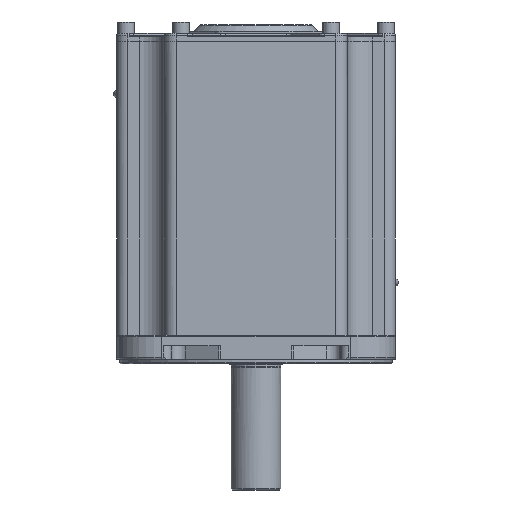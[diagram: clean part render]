
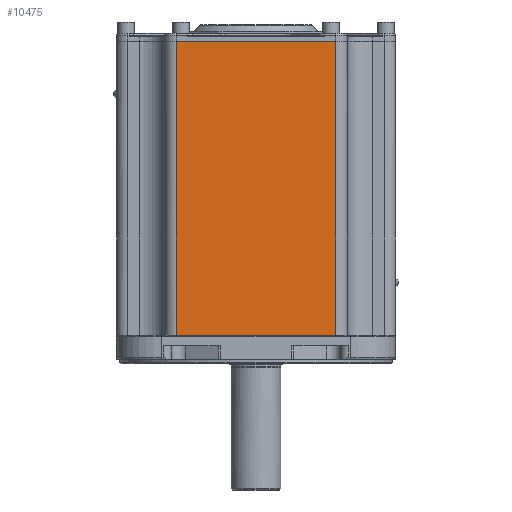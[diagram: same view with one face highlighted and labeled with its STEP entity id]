
A CAD part, front view. The second image highlights one B-rep face of the part: STEP entity #10475.
In plain terms, the highlighted planar face has unit normal (0, -1, 0).
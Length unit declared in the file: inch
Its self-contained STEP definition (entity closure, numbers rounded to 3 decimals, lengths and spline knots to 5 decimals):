
#9955=CARTESIAN_POINT('',(-2.65,-4.625,10.15));
#9956=VERTEX_POINT('',#9955);
#9963=CARTESIAN_POINT('',(2.65,-4.625,10.15));
#9964=VERTEX_POINT('',#9963);
#9965=CARTESIAN_POINT('',(2.65,-4.625,10.15));
#9966=DIRECTION('',(-1.0,0.0,0.0));
#9967=VECTOR('',#9966,5.3);
#9968=LINE('',#9965,#9967);
#9969=EDGE_CURVE('',#9964,#9956,#9968,.T.);
#10424=CARTESIAN_POINT('',(2.65,-4.625,0.4));
#10425=VERTEX_POINT('',#10424);
#10426=CARTESIAN_POINT('',(2.65,-4.625,10.15));
#10427=DIRECTION('',(0.0,0.0,-1.0));
#10428=VECTOR('',#10427,9.75);
#10429=LINE('',#10426,#10428);
#10430=EDGE_CURVE('',#9964,#10425,#10429,.T.);
#10452=CARTESIAN_POINT('',(3.025,-4.625,0.4));
#10453=DIRECTION('',(0.0,-1.0,0.0));
#10454=DIRECTION('',(0.0,0.0,-1.0));
#10455=AXIS2_PLACEMENT_3D('',#10452,#10453,#10454);
#10456=PLANE('',#10455);
#10457=ORIENTED_EDGE('',*,*,#9969,.T.);
#10458=CARTESIAN_POINT('',(-2.65,-4.625,0.4));
#10459=VERTEX_POINT('',#10458);
#10460=CARTESIAN_POINT('',(-2.65,-4.625,0.4));
#10461=DIRECTION('',(0.0,0.0,1.0));
#10462=VECTOR('',#10461,9.75);
#10463=LINE('',#10460,#10462);
#10464=EDGE_CURVE('',#10459,#9956,#10463,.T.);
#10465=ORIENTED_EDGE('',*,*,#10464,.F.);
#10466=CARTESIAN_POINT('',(-2.65,-4.625,0.4));
#10467=DIRECTION('',(1.0,0.0,0.0));
#10468=VECTOR('',#10467,5.3);
#10469=LINE('',#10466,#10468);
#10470=EDGE_CURVE('',#10459,#10425,#10469,.T.);
#10471=ORIENTED_EDGE('',*,*,#10470,.T.);
#10472=ORIENTED_EDGE('',*,*,#10430,.F.);
#10473=EDGE_LOOP('',(#10457,#10465,#10471,#10472));
#10474=FACE_OUTER_BOUND('',#10473,.T.);
#10475=ADVANCED_FACE('',(#10474),#10456,.T.);
